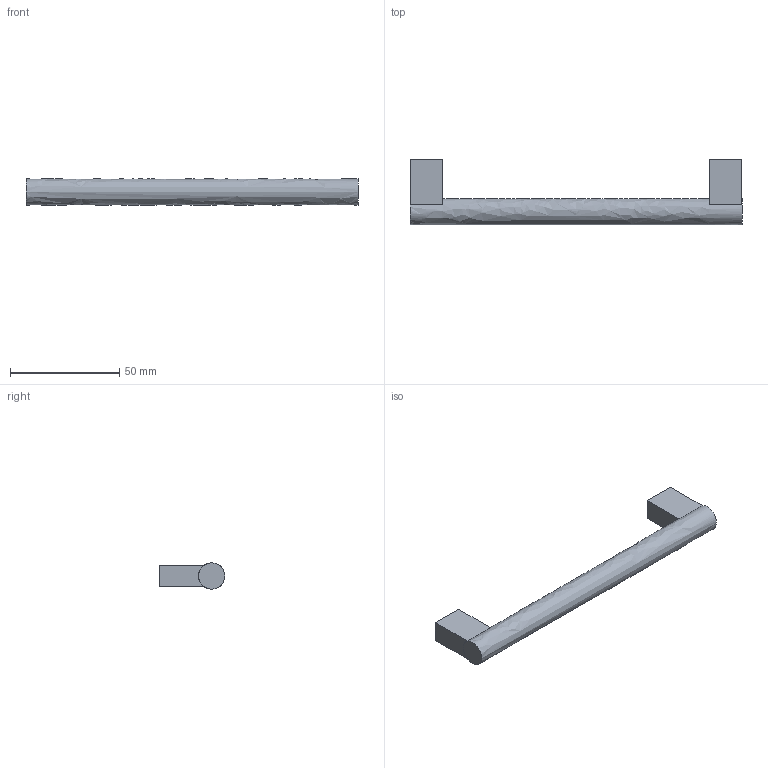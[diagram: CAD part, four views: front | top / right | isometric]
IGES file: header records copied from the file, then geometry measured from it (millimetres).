
Start section: Data from Parasolid IGES Translator 15.0.47, Copyright(c) 2006 Siemens P LM Software. All Rights Reserved.
Global section: file name: 9995498.igs; native system:  By UGS Corp.; preprocessor: XPlus GENERIC/IGES 3.0; author: Noname; organization: Noname; date: 20140122.144055; units: millimetre
Bounding box: 152 x 30 x 12 mm (x, y, z)
Surface area: 8095.7 mm2 (no closed solid volume)
Topology: 0 solids, 0 shells, 17 faces, 66 edges, 62 vertices
Faces by surface type: extrusion 14, revolution 3
